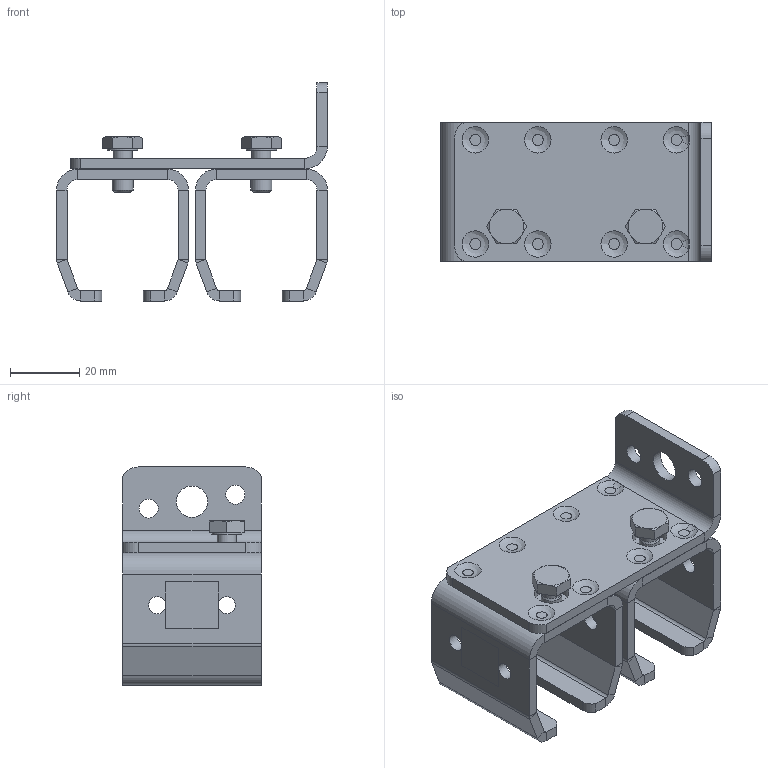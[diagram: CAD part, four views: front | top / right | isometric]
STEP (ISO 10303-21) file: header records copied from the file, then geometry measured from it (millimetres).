
FILE_DESCRIPTION(/* description */ ('Doppelwandbefestigung Nr.0'),/* implementation_level */ '2;1');
FILE_NAME(/* name */ 'C:\Users\avlesti\Desktop\010335638.stp',/* time_stamp */ '2021-03-29T12:14:14+02:00',/* author */ ('avlesti'),/* organization */ (''),/* preprocessor_version */ 'ST-DEVELOPER v17.2',/* originating_system */ 'Autodesk Inventor 2019',/* authorisation */ '');
FILE_SCHEMA (('AUTOMOTIVE_DESIGN { 1 0 10303 214 3 1 1 }'));
Length unit declared in the file: millimetre
Products named in the file (4): 010335638; 010335638_01; 335140000; DIN EN ISO 4017 - M6  x 12
Assembly tree (5 placements, depth 2):
  010335638
    010335638_01
    335140000  x2
    DIN EN ISO 4017 - M6  x 12  x2
Bounding box: 78 x 40 x 62.85 mm (x, y, z)
Volume: 39050.5 mm3; surface area: 29849.5 mm2
Topology: 5 solids, 5 shells, 257 faces, 581 edges, 346 vertices
Faces by surface type: plane 160, cylinder 61, bspline 20, cone 16
Full cylindrical faces by diameter (mm): 4.917 x6, 5 x6, 5.459 x2, 5.5 x2, 6 x2, 8.7 x2, 9 x1, 10 x2
Entity records: 5010 total; most frequent: CARTESIAN_POINT 1215, DIRECTION 806, ORIENTED_EDGE 716, EDGE_CURVE 358, AXIS2_PLACEMENT_3D 311, VERTEX_POINT 216, EDGE_LOOP 196, LINE 184
